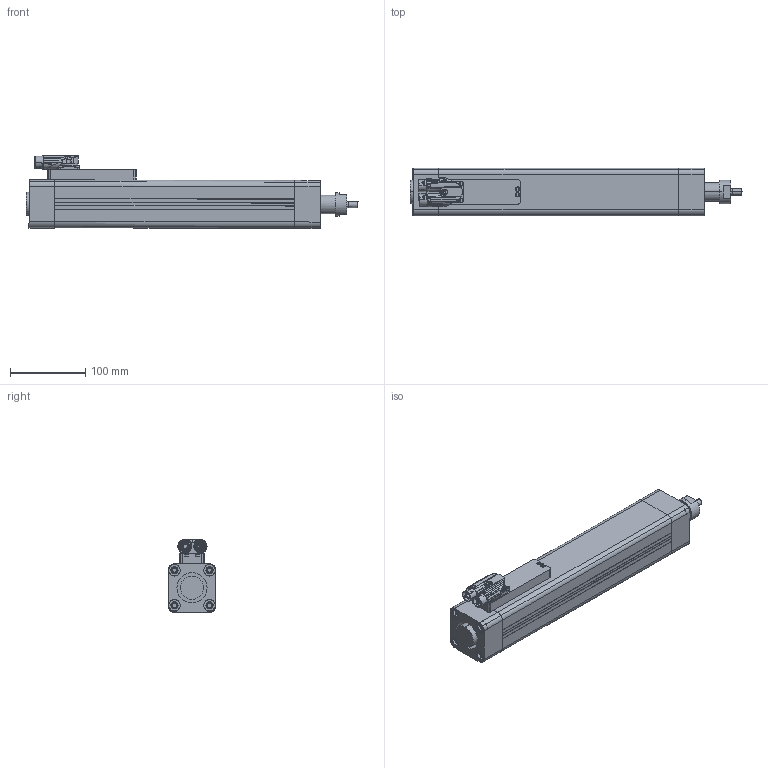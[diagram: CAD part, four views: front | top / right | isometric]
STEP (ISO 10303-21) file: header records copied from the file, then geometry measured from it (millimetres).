
FILE_DESCRIPTION(('STEP AP214'),'1');
FILE_NAME('ETT050S3CSMN0030C.stp','2015-01-08T15:41:08',(' '),(' '),'Spatial InterOp 3D',' ',' ');
FILE_SCHEMA(('automotive_design'));
Length unit declared in the file: millimetre
Products named in the file (27): ETT050S3CSMN0030C; Ass eth50 3 vuoto; ETH050 3.1; TAPPO NORMALE; TAPPO; Scatola; Vite M3 lunga; Connettore a y a blocchi; Pin; Vite; Pallino verde; Pallino arancione; Frutto verde; Frutto arancione; Corpo connettore; Vite M3scheda -tappo; cuscinetto; viti parker; riempitivo; Slider FINTO maschio
Assembly tree (36 placements, depth 3):
  ETT050S3CSMN0030C
    Ass eth50 3 vuoto
    ETH050 3.1
    TAPPO NORMALE
    TAPPO
    Scatola
    Vite M3 lunga  x4
    Connettore a y a blocchi
      Pin
      Vite
      Pallino verde
      Pallino arancione
      Frutto verde
      Frutto arancione
      Corpo connettore
    Vite M3scheda -tappo  x4
    cuscinetto  x2
    viti parker
    viti parker
    viti parker
    viti parker
    viti parker
    viti parker
    viti parker
    viti parker
    riempitivo  x4
    Slider FINTO maschio
Bounding box: 440.04 x 63.5 x 97.6 mm (x, y, z)
Volume: 1233082.5 mm3; surface area: 359857.1 mm2
Topology: 27 solids, 1871 shells, 2478 faces, 10223 edges, 9654 vertices
Faces by surface type: cylinder 1024, plane 694, bspline 288, torus 262, cone 95, extrusion 68, sphere 47
Entity records: 161440 total; most frequent: CARTESIAN_POINT 60000, DIRECTION 14449, ORIENTED_EDGE 10205, EDGE_CURVE 9324, VERTEX_POINT 9032, AXIS2_PLACEMENT_3D 5530, STYLED_ITEM 3502, PRESENTATION_STYLE_ASSIGNMENT 3502
